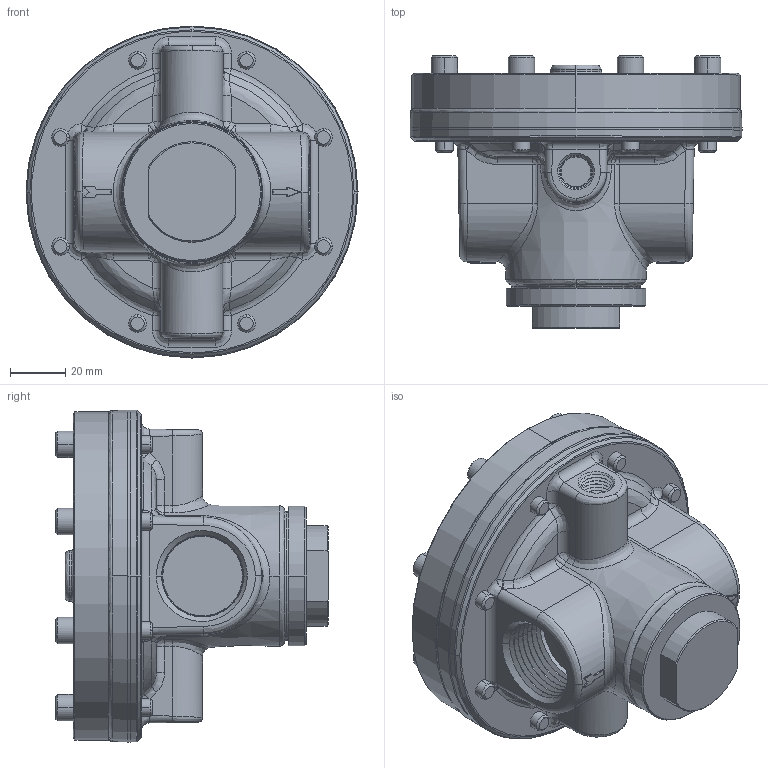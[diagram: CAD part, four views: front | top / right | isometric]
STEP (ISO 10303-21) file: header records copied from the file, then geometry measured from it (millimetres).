
FILE_DESCRIPTION (( 'STEP AP203' ), '1' );
FILE_NAME ('4GDR-8BSPT-PO.STEP', '2013-03-14T15:26:31', ( '' ), ( '' ), 'SwSTEP 2.0', 'SolidWorks 2011', '' );
FILE_SCHEMA (( 'CONFIG_CONTROL_DESIGN' ));
Length unit declared in the file: inch
Products named in the file (2): Part7^4GDR-1000B-PO_CM_1; 4GDR-8BSPT-PO
Assembly tree (1 placements, depth 2):
  4GDR-8BSPT-PO
    Part7^4GDR-1000B-PO_CM_1
Bounding box: 120.14 x 98.67 x 120.14 mm (x, y, z)
Volume: 476032.3 mm3; surface area: 57081.3 mm2
Topology: 1 solids, 1 shells, 729 faces, 1724 edges, 1006 vertices
Faces by surface type: cone 339, plane 160, bspline 120, cylinder 110
Entity records: 26567 total; most frequent: CARTESIAN_POINT 10178, DIRECTION 3489, ORIENTED_EDGE 3398, EDGE_CURVE 1699, AXIS2_PLACEMENT_3D 1395, VERTEX_POINT 1006, CIRCLE 782, EDGE_LOOP 763
